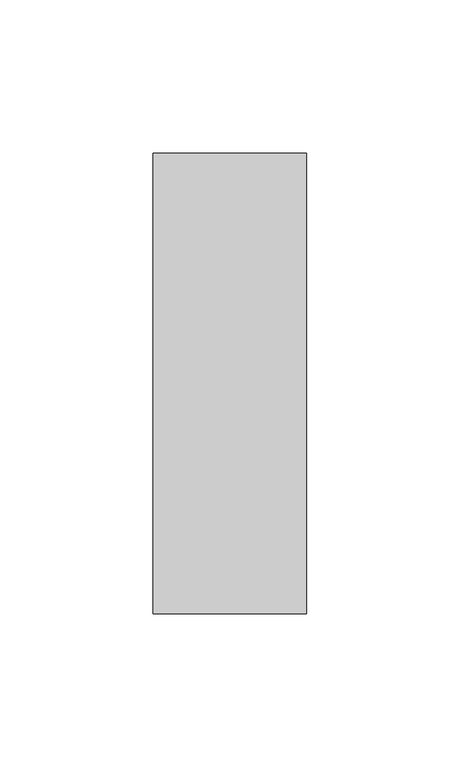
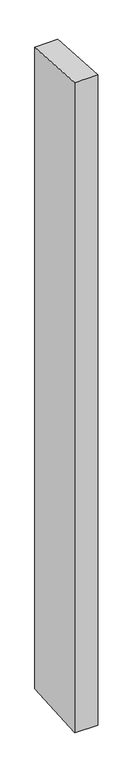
"""IFC4 building model written with IfcOpenShell, lengths in millimetres: member geometry, Прямоугольный импост : 50 x 150 мм."""

from ifc_helpers import new_model, si_unit, origin, place, context, project, spatial, faceted_brep, source, transform, mapped, element, save


def member_76bb9362(model_context):
    return source(origin(), model_context, "Body", "Brep", [
        faceted_brep([(-25.0, 75.0, -5.5435347), (25.0, 75.0, -4.4154854), (25.0, 75.0, -1480.0037578), (-25.0, 75.0, -1478.7583372), (-25.0, -75.0, 4.4154854), (-25.0, -75.0, -1487.8651997), (25.0, -75.0, 5.5435347), (25.0, -75.0, -1489.1106203)], [[[0, 1, 2, 3]], [[4, 0, 3, 5]], [[6, 4, 5, 7]], [[1, 6, 7, 2]], [[1, 0, 4, 6]], [[2, 7, 5, 3]]]),
    ])


if __name__ == "__main__":
    model = new_model("IFC4")
    model_context = context("Model", 3, world=origin())
    ifc_project = project(units=[si_unit("LENGTHUNIT", "METRE", prefix="MILLI")], contexts=[model_context])
    site = spatial("IfcSite", under=ifc_project)
    building = spatial("IfcBuilding", under=site)
    placement = place(None, origin())
    member_shape = member_76bb9362(model_context)
    element("IfcMember", 1, ObjectType="Прямоугольный импост : 50 x 150 мм", at=placement, inside=building, context=model_context, shape_type="MappedRepresentation", body=[
        mapped(member_shape, transform((0.0, 0.0, 0.0), x_axis=(1.0, 0.0, 0.0), y_axis=(0.0, 1.0, 0.0), z_axis=(0.0, 0.0, 1.0))),
    ])
    save(model, "model.ifc")
